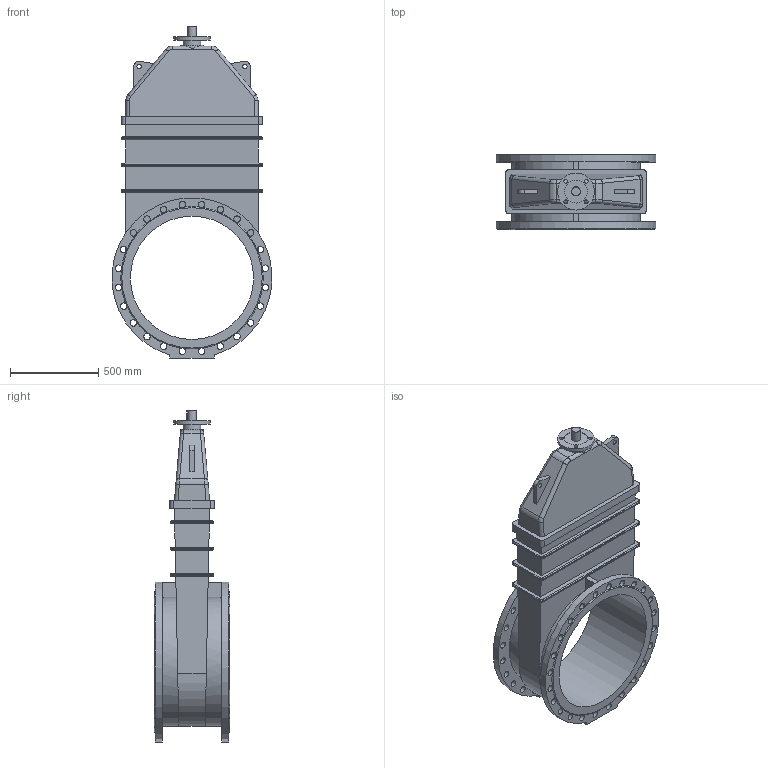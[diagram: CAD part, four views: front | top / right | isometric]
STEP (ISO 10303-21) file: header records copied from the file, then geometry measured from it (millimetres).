
FILE_DESCRIPTION(('STEP AP203'), '1');
FILE_NAME('Çàäâèæêà 47GVA DN700 PN10_PN16_F16 áåç èñïîëíèò. ìåõ.', '', ('UNSPECIFIED'), ('UNSPECIFIED'), 'ASCON STEP Converter 1.6', 'ASCON Math Kernel', '');
FILE_SCHEMA(('CONFIG_CONTROL_DESIGN'));
Length unit declared in the file: millimetre
Bounding box: 907.25 x 430 x 1885 mm (x, y, z)
Volume: 172166632.6 mm3; surface area: 5421009.3 mm2
Topology: 1 solids, 1 shells, 258 faces, 785 edges, 501 vertices
Faces by surface type: cylinder 131, plane 93, bspline 32, cone 2
Full cylindrical faces by diameter (mm): 22 x4, 25 x2, 37 x48, 50 x1, 100 x1, 130 x2, 210 x1, 700 x1
Entity records: 16479 total; most frequent: CARTESIAN_POINT 7572, ORIENTED_EDGE 1436, DIRECTION 1364, EDGE_CURVE 718, AXIS2_PLACEMENT_3D 547, VERTEX_POINT 498, EDGE_LOOP 404, FACE_BOUND 331
